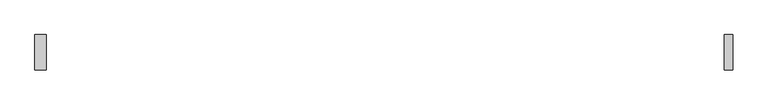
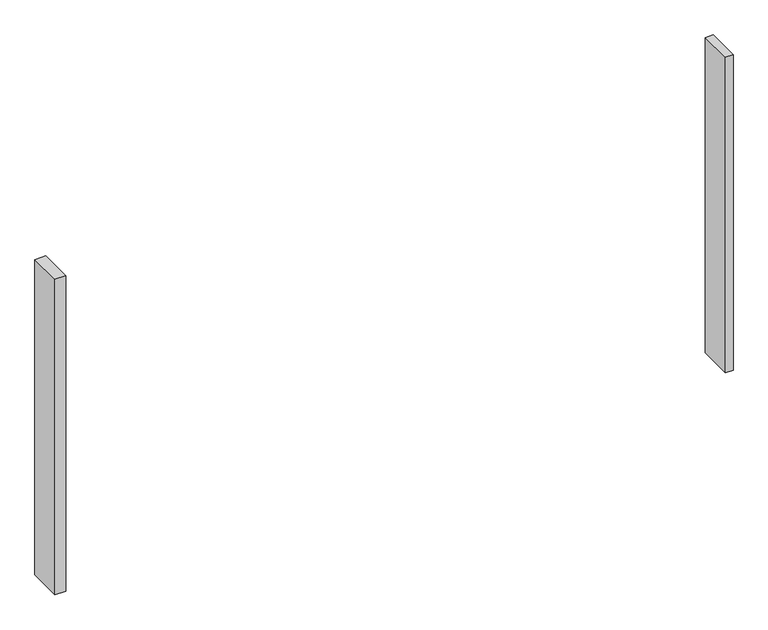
"""IFC4 building model written with IfcOpenShell, lengths in millimetres: plate geometry, Системная панель : Алюкобонд серый."""

from ifc_helpers import new_model, si_unit, origin, origin_with_axes, place, context, project, spatial, polyline, outline, extrude, source, transform, mapped, element, save


def plate_a80fd585(model_context):
    return source(origin(), model_context, "Body", "SweptSolid", [
        extrude(outline(polyline([(-571.2177422, -10.5), (-590.0, -10.5), (-590.0, 49.5), (-571.2177422, 49.5), (-571.2177422, -10.5)])), origin_with_axes(), (0.0, 0.0, 1.0), 580.0),
        extrude(outline(polyline([(590.0, -10.5), (576.3209135, -10.5), (576.3209135, 49.5), (590.0, 49.5), (590.0, -10.5)])), origin_with_axes(), (0.0, 0.0, 1.0), 580.0),
    ])


if __name__ == "__main__":
    model = new_model("IFC4")
    model_context = context("Model", 3, world=origin())
    ifc_project = project(units=[si_unit("LENGTHUNIT", "METRE", prefix="MILLI")], contexts=[model_context])
    site = spatial("IfcSite", under=ifc_project)
    building = spatial("IfcBuilding", under=site)
    placement = place(None, origin())
    plate_shape = plate_a80fd585(model_context)
    element("IfcPlate", 1, ObjectType="Системная панель : Алюкобонд серый", at=placement, inside=building, context=model_context, shape_type="MappedRepresentation", body=[
        mapped(plate_shape, transform((0.0, 0.0, 0.0), x_axis=(1.0, 0.0, 0.0), y_axis=(0.0, 1.0, 0.0), z_axis=(0.0, 0.0, 1.0))),
    ])
    save(model, "model.ifc")
